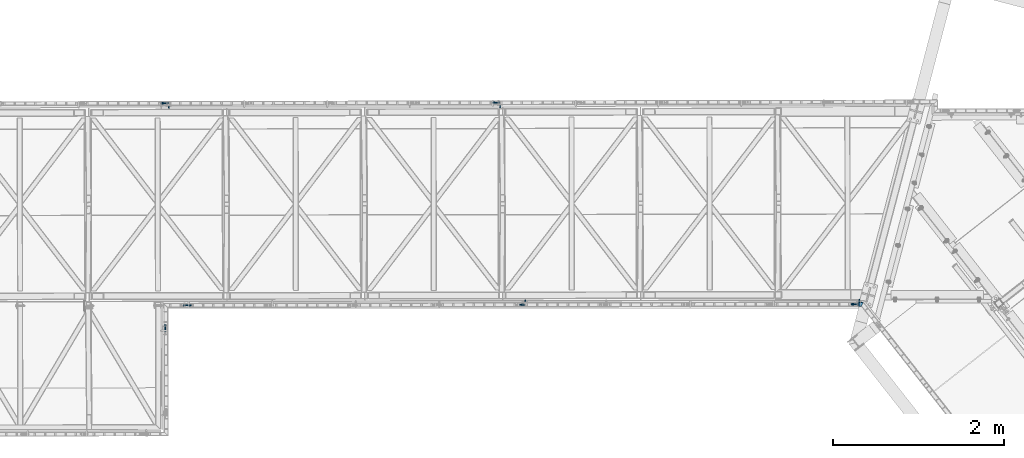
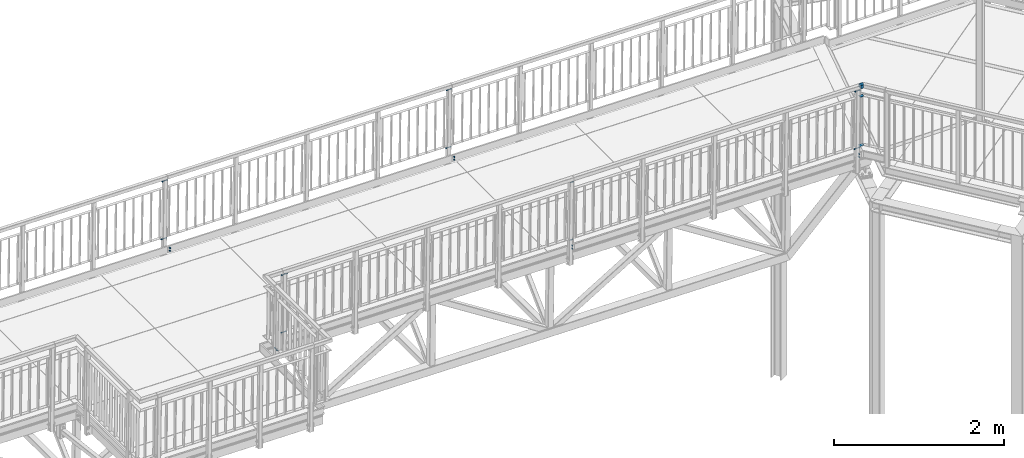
# One storey, part 165 of 169: 15 mechanical fasteners, 3 discrete accessories, 4 elements without a shape of their own.
"""IFC2X3 building model written with IfcOpenShell, lengths in millimetres."""

import ifcopenshell
import ifcopenshell.guid

model = None  # the IFC model being written
_history = None  # IfcOwnerHistory: only IFC2X3 demands one
_inside = {}  # id of a spatial element -> (the spatial element, [elements in it])
_under = {}  # id of a project, library or spatial element -> (it, [spatial elements below it])
_declared = {}  # id of a project -> (the project, [libraries it declares])
_typed = {}  # id of a type object -> (the type object, [elements of that type])
_made_of = {}  # id of a material, layer set ... -> (it, [elements and type objects made of it])


def new_model(schema):
    """Start an empty IFC model of exactly this schema.

    Asked for "IFC4X3", IfcOpenShell would pick the latest addendum, in which some entities
    have other attributes; the version numbers below select the first issue.
    IFC2X3 requires an IfcOwnerHistory on every rooted entity: one is made here for all.
    """
    global model, _history
    if schema == "IFC4X3":
        model = ifcopenshell.file(schema_version=(4, 3, 0, 0))
    else:
        model = ifcopenshell.file(schema=schema)
    _inside.clear()
    _under.clear()
    _declared.clear()
    _typed.clear()
    _made_of.clear()
    _history = None
    if model.schema == "IFC2X3":
        org = make("IfcOrganization", Name="unknown")
        user = make(
            "IfcPersonAndOrganization",
            ThePerson=make("IfcPerson", FamilyName="unknown"),
            TheOrganization=org,
        )
        app = make(
            "IfcApplication",
            ApplicationDeveloper=org,
            Version="unknown",
            ApplicationFullName="unknown",
            ApplicationIdentifier="unknown",
        )
        _history = make(
            "IfcOwnerHistory",
            OwningUser=user,
            OwningApplication=app,
            ChangeAction="ADDED",
            CreationDate=0,
        )
    return model


def make(cls, **values):
    """One entity of the class cls with the attributes given. An attribute that is None is left unset."""
    return model.create_entity(
        cls, **{name: value for name, value in values.items() if value is not None}
    )


def rooted(cls, **values):
    """An entity with a GlobalId (a new one), such as an element, a storey or a relation."""
    return make(cls, GlobalId=ifcopenshell.guid.new(), OwnerHistory=_history, **values)


def si_unit(unit_type, name, prefix=None):
    """IfcSIUnit, for example si_unit("LENGTHUNIT", "METRE", prefix="MILLI")."""
    return make("IfcSIUnit", UnitType=unit_type, Prefix=prefix, Name=name)


def assignment(units):
    """IfcUnitAssignment: the units of a project."""
    return None if units is None else make("IfcUnitAssignment", Units=units)


def point(xyz):
    """IfcCartesianPoint."""
    return None if xyz is None else make("IfcCartesianPoint", Coordinates=xyz)


def direction(xyz):
    """IfcDirection."""
    return None if xyz is None else make("IfcDirection", DirectionRatios=xyz)


def frame(location, z_axis=None, x_axis=None):
    """IfcAxis2Placement3D, a coordinate frame: its origin and axes. An axis left out is left unset."""
    return make(
        "IfcAxis2Placement3D",
        Location=point(location),
        Axis=direction(z_axis),
        RefDirection=direction(x_axis),
    )


def frame_2d(location, x_axis=None):
    """IfcAxis2Placement2D, a coordinate frame in the plane: its origin and x axis."""
    return make(
        "IfcAxis2Placement2D", Location=point(location), RefDirection=direction(x_axis)
    )


def origin_with_axes():
    """The frame at (0, 0, 0) with the z axis (0, 0, 1) and the x axis (1, 0, 0) written out."""
    return frame((0.0, 0.0, 0.0), z_axis=(0.0, 0.0, 1.0), x_axis=(1.0, 0.0, 0.0))


def origin_2d_with_axis():
    """The frame at (0, 0) in the plane with the x axis (1, 0) written out."""
    return frame_2d((0.0, 0.0), x_axis=(1.0, 0.0))


def place(relative_to, where):
    """IfcLocalPlacement: puts the frame where relative to a parent placement (None: the world)."""
    return make(
        "IfcLocalPlacement", PlacementRelTo=relative_to, RelativePlacement=where
    )


def context(
    kind, dimensions, precision=None, world=None, true_north=None, identifier=None
):
    """IfcGeometricRepresentationContext, for example the 3D "Model" context."""
    return make(
        "IfcGeometricRepresentationContext",
        ContextIdentifier=identifier,
        ContextType=kind,
        CoordinateSpaceDimension=dimensions,
        Precision=precision,
        WorldCoordinateSystem=world,
        TrueNorth=true_north,
    )


def subcontext(parent, identifier, kind, view, scale=None):
    """IfcGeometricRepresentationSubContext, for example "Body" below "Model"."""
    return make(
        "IfcGeometricRepresentationSubContext",
        ContextIdentifier=identifier,
        ContextType=kind,
        ParentContext=parent,
        TargetScale=scale,
        TargetView=view,
    )


def project(units=None, contexts=None):
    """IfcProject with its units and contexts."""
    return rooted(
        "IfcProject",
        Name="project",
        RepresentationContexts=contexts,
        UnitsInContext=assignment(units),
    )


def spatial(cls, under=None, at=None, **own):
    """A site, building, storey or space (cls), placed at a placement, below another one or the project."""
    s = rooted(cls, ObjectPlacement=at, **own)
    if under is not None:
        _under.setdefault(under.id(), (under, []))[1].append(s)
    return s


def polyline(points):
    """IfcPolyline through the points."""
    return make("IfcPolyline", Points=[point(p) for p in points])


def circle_curve(where, radius):
    """IfcCircle in the frame where."""
    return make("IfcCircle", Position=where, Radius=radius)


def parameter(value):
    """IfcParameterValue: where a trimmed curve begins or ends, as a parameter of its basis curve."""
    return model.create_entity("IfcParameterValue", value)


def trimmed(basis, trim1, trim2, sense, master):
    """IfcTrimmedCurve: the piece of a basis curve between two trims."""
    return make(
        "IfcTrimmedCurve",
        BasisCurve=basis,
        Trim1=trim1,
        Trim2=trim2,
        SenseAgreement=sense,
        MasterRepresentation=master,
    )


def segment(curve, same_sense, transition):
    """IfcCompositeCurveSegment."""
    return make(
        "IfcCompositeCurveSegment",
        Transition=transition,
        SameSense=same_sense,
        ParentCurve=curve,
    )


def composite_curve(segments, self_intersect=None):
    """IfcCompositeCurve: segments joined end to end."""
    return make("IfcCompositeCurve", Segments=segments, SelfIntersect=self_intersect)


def profile(cls, at=None, kind="AREA", **sizes):
    """A parametric profile (cls). Its sizes go by their IFC names, for example OverallWidth=200.0."""
    return make(cls, ProfileType=kind, Position=at, **sizes)


def hollow_rectangle(**sizes):
    """IfcRectangleHollowProfileDef."""
    return profile("IfcRectangleHollowProfileDef", **sizes)


def circle(**sizes):
    """IfcCircleProfileDef."""
    return profile("IfcCircleProfileDef", **sizes)


def outline(outer, holes=None, kind="AREA"):
    """IfcArbitraryClosedProfileDef: a profile drawn as a closed curve; with holes, ...WithVoids."""
    if holes is None:
        return make("IfcArbitraryClosedProfileDef", ProfileType=kind, OuterCurve=outer)
    return make(
        "IfcArbitraryProfileDefWithVoids",
        ProfileType=kind,
        OuterCurve=outer,
        InnerCurves=holes,
    )


def extrude(swept, where, along, depth):
    """IfcExtrudedAreaSolid: the profile swept, set in the frame where, extruded along a direction by depth."""
    return make(
        "IfcExtrudedAreaSolid",
        SweptArea=swept,
        Position=where,
        ExtrudedDirection=direction(along),
        Depth=depth,
    )


def clip(a, b, op="DIFFERENCE"):
    """IfcBooleanClippingResult: the solid a cut by the half space b."""
    return make(
        "IfcBooleanClippingResult", Operator=op, FirstOperand=a, SecondOperand=b
    )


def halfspace(plane, agree):
    """IfcHalfSpaceSolid: all space on one side of the plane z = 0 of the frame plane."""
    return make(
        "IfcHalfSpaceSolid",
        BaseSurface=make("IfcPlane", Position=plane),
        AgreementFlag=agree,
    )


def shape(context_of_items, identifier, shape_type, items):
    """IfcShapeRepresentation: the items that make up one representation, for example the "Body"."""
    return make(
        "IfcShapeRepresentation",
        ContextOfItems=context_of_items,
        RepresentationIdentifier=identifier,
        RepresentationType=shape_type,
        Items=items,
    )


def source(mapping_origin, context_of_items, identifier, shape_type, items):
    """IfcRepresentationMap: a shape defined once, which mapped items show again and again."""
    return make(
        "IfcRepresentationMap",
        MappingOrigin=mapping_origin,
        MappedRepresentation=shape(context_of_items, identifier, shape_type, items),
    )


def transform(
    local_origin,
    x_axis=None,
    y_axis=None,
    z_axis=None,
    scale=None,
    scale2=None,
    scale3=None,
    uniform=True,
):
    """IfcCartesianTransformationOperator3D, or its non-uniform kind. x_axis, y_axis, z_axis: its Axis1, 2, 3."""
    if uniform:
        return make(
            "IfcCartesianTransformationOperator3D",
            Axis1=direction(x_axis),
            Axis2=direction(y_axis),
            LocalOrigin=point(local_origin),
            Scale=scale,
            Axis3=direction(z_axis),
        )
    return make(
        "IfcCartesianTransformationOperator3DnonUniform",
        Axis1=direction(x_axis),
        Axis2=direction(y_axis),
        LocalOrigin=point(local_origin),
        Scale=scale,
        Axis3=direction(z_axis),
        Scale2=scale2,
        Scale3=scale3,
    )


def mapped(mapping_source, mapping_target):
    """IfcMappedItem: shows the shape of a source again, moved by a transform."""
    return make(
        "IfcMappedItem", MappingSource=mapping_source, MappingTarget=mapping_target
    )


def material(Name=None, Category=None):
    """IfcMaterial."""
    return make("IfcMaterial", Name=Name, Category=Category)


def made_of(thing, what):
    """Note that an element or type object is made of a material, layer set ...; save() writes the relation."""
    if what is not None:
        _made_of.setdefault(what.id(), (what, []))[1].append(thing)
    return thing


def type_object(cls, material=None, **own):
    """A type object (cls), such as IfcWallType, which elements share."""
    return made_of(rooted(cls, **own), material)


def element(
    cls,
    number,
    at=None,
    inside=None,
    cuts=None,
    type_object=None,
    material=None,
    context=None,
    identifier="Body",
    shape_type=None,
    held_by="IfcProductDefinitionShape",
    body=None,
    shapes=None,
    **own,
):
    """One element of the class cls, such as IfcWall. Its Tag is "e" and its number.

    at: its placement. inside: the storey or other place that contains it. cuts: it is an
    opening in that element (IfcRelVoidsElement). A single representation is given by context,
    identifier, shape_type and body (its items); several are given by shapes. held_by: the class
    of the entity that holds the representations. save() writes the other relations.
    """
    e = rooted(cls, Tag="e%d" % number, ObjectPlacement=at, **own)
    if body is not None:
        shapes = [shape(context, identifier, shape_type, body)]
    if shapes is not None:
        e.Representation = make(held_by, Representations=shapes)
    if inside is not None:
        _inside.setdefault(inside.id(), (inside, []))[1].append(e)
    if cuts is not None:
        rooted(
            "IfcRelVoidsElement", RelatingBuildingElement=cuts, RelatedOpeningElement=e
        )
    if type_object is not None:
        _typed.setdefault(type_object.id(), (type_object, []))[1].append(e)
    return made_of(e, material)


def aggregate(whole, parts):
    """IfcRelAggregates: a whole, such as a stair, and the parts it consists of."""
    return rooted("IfcRelAggregates", RelatingObject=whole, RelatedObjects=parts)


def save(model, path):
    """Write the relations noted so far, then the file.

    IfcRelAggregates (storeys below a building ...), IfcRelContainedInSpatialStructure (elements
    in a storey), IfcRelDefinesByType, IfcRelAssociatesMaterial and IfcRelDeclares: one each for
    every whole, place, type object, material and project.
    """
    for whole, parts in _under.values():
        aggregate(whole, parts)
    for where, things in _inside.values():
        rooted(
            "IfcRelContainedInSpatialStructure",
            RelatedElements=things,
            RelatingStructure=where,
        )
    for kind, things in _typed.values():
        rooted("IfcRelDefinesByType", RelatedObjects=things, RelatingType=kind)
    for what, things in _made_of.values():
        rooted("IfcRelAssociatesMaterial", RelatedObjects=things, RelatingMaterial=what)
    for by, libraries in _declared.values():
        rooted("IfcRelDeclares", RelatingContext=by, RelatedDefinitions=libraries)
    model.write(path)


model = new_model("IFC2X3")

# Units and contexts
model_context = context("Model", 3, precision=1e-05, world=origin_with_axes())
body_context = subcontext(model_context, "Body", "Model", "MODEL_VIEW")
ifc_project = project(units=[si_unit("LENGTHUNIT", "METRE", prefix="MILLI"), si_unit("AREAUNIT", "SQUARE_METRE"), si_unit("VOLUMEUNIT", "CUBIC_METRE"), si_unit("MASSUNIT", "GRAM", prefix="KILO"), si_unit("TIMEUNIT", "SECOND"), si_unit("PLANEANGLEUNIT", "RADIAN"), si_unit("SOLIDANGLEUNIT", "STERADIAN"), si_unit("THERMODYNAMICTEMPERATUREUNIT", "DEGREE_CELSIUS"), si_unit("LUMINOUSINTENSITYUNIT", "LUMEN")], contexts=[model_context])

# Site, building, storey
site_placement = place(None, origin_with_axes())
site = spatial("IfcSite", under=ifc_project, at=site_placement, Name="Undefined", CompositionType="ELEMENT")
building_placement = place(site_placement, origin_with_axes())
building = spatial("IfcBuilding", under=site, at=building_placement, Name="Undefined", CompositionType="ELEMENT")
storey_placement = place(building_placement, origin_with_axes())
storey = spatial("IfcBuildingStorey", under=building, at=storey_placement, Name="Undefined", CompositionType="ELEMENT", Elevation=0.0)

# Assembly, discrete accessories, mechanical fasteners
assembly_1_placement = place(storey_placement, origin_with_axes())
assembly_1 = element("IfcElementAssembly", 1, at=assembly_1_placement, inside=storey, Name="Steel Assembly", AssemblyPlace="NOTDEFINED", PredefinedType="RIGID_FRAME")
ifc_material_1 = material(Name="STEEL/S235")
discrete_accessory_type_1 = type_object("IfcDiscreteAccessoryType", Name="PORĘCZ")
discrete_accessory_1_placement = place(assembly_1_placement, frame((18352.2144360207, 29.2418517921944, 14031.9308487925), z_axis=(-2.54700353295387e-10, 0.0, -1.0), x_axis=(-0.999998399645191, -0.00178905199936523, -2.9999999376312e-08)))
discrete_accessory_1 = element("IfcDiscreteAccessory", 2, at=discrete_accessory_1_placement, type_object=discrete_accessory_type_1, material=ifc_material_1, Name="PORĘCZ", ObjectType="BL40*3", context=body_context, shape_type="Clipping", body=[
    clip(clip(clip(extrude(outline(polyline([(41.5471938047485, -19.9999999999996), (-6.66753985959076, -20.0), (-26.1714356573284, 19.9999999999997), (41.5502256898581, 20.0000000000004), (41.5471938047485, -19.9999999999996)])), frame((1.81898940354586e-12, -1.77635442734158e-15, -1.50000000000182), z_axis=(0.0, 0.0, 1.0), x_axis=(1.0, 0.0, 0.0)), (0.0, 0.0, 1.0), 3.0), halfspace(frame((-6.66753985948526, -20.0000000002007, 2.71393219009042e-09), z_axis=(-0.898841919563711, -0.438272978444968, -6.07536622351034e-11), x_axis=(-2.54700353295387e-10, 0.0, -1.0)), False)), halfspace(frame((41.6249109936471, 1000.00018660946, 0.0317833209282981), z_axis=(-0.999919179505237, 7.57910018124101e-05, 0.0127133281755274), x_axis=(0.0127133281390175, -9.63496930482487e-07, 0.999919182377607)), True)), halfspace(frame((46.6289521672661, 1000.0018919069, 0.317833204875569), z_axis=(-0.999919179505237, 7.57910018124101e-05, 0.0127133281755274), x_axis=(0.0127133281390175, -9.63496930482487e-07, 0.999919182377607)), True)),
])
discrete_accessory_2_placement = place(assembly_1_placement, frame((18351.7902672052, 29.2411683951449, 14736.4308546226), z_axis=(-2.54700353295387e-10, 0.0, -1.0), x_axis=(-0.999998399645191, -0.00178905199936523, -2.9999999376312e-08)))
discrete_accessory_2 = element("IfcDiscreteAccessory", 3, at=discrete_accessory_2_placement, type_object=discrete_accessory_type_1, material=ifc_material_1, Name="PORĘCZ", ObjectType="BL40*3", context=body_context, shape_type="Clipping", body=[
    clip(clip(extrude(outline(polyline([(32.1658776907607, -19.9999999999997), (-7.09165019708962, -20.0), (-26.5955459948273, 19.9999999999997), (32.1689095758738, 20.0000000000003), (32.1658776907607, -19.9999999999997)])), frame((1.81898940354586e-12, -1.77635442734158e-15, -1.50000000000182), z_axis=(0.0, 0.0, 1.0), x_axis=(1.0, 0.0, 0.0)), (0.0, 0.0, 1.0), 3.0), halfspace(frame((-7.09165019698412, -20.0000000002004, 2.71393219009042e-09), z_axis=(-0.898841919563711, -0.438272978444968, -6.07536622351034e-11), x_axis=(-2.54700353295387e-10, 0.0, -1.0)), False)), halfspace(frame((32.2435948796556, 1000.00018660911, 0.0317833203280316), z_axis=(-0.999919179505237, 7.57910018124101e-05, 0.0127133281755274), x_axis=(0.0127133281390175, -9.63496930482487e-07, 0.999919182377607)), True)),
])
discrete_accessory_3_placement = place(assembly_1_placement, frame((18406.7901670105, 29.3395817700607, 14881.4308637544), z_axis=(-0.00178905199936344, 0.999998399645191, 0.0), x_axis=(-0.999998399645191, -0.00178905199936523, -2.9999999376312e-08)))
discrete_accessory_3 = element("IfcDiscreteAccessory", 4, at=discrete_accessory_3_placement, type_object=discrete_accessory_type_1, material=ifc_material_1, Name="PORĘCZ", ObjectType="SHS50*3", context=body_context, shape_type="Clipping", body=[
    clip(clip(extrude(hollow_rectangle(XDim=50.0, YDim=50.0, WallThickness=3.0, InnerFilletRadius=3.0, OuterFilletRadius=6.0, at=origin_2d_with_axis()), frame((98.0489649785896, -1.81898940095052e-12, -1.31768923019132e-15), z_axis=(-1.0, -3.46944695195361e-18, -1.38777878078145e-17), x_axis=(1.73472347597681e-18, -1.0, 0.0)), (0.0, 0.0, 1.0), 72.62), halfspace(frame((85.4000260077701, -0.0317833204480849, 1000.00018661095), z_axis=(-0.999919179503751, -0.0127133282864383, 7.57920017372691e-05), x_axis=(0.012713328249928, -0.999919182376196, -9.63501842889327e-07)), True)), halfspace(frame((25.9664652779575, -4.39886025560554e-06, 25.0000015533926), z_axis=(0.898841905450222, 2.71121789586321e-08, 0.43827300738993), x_axis=(0.0, 1.0, 0.0)), True)),
])
ifc_material_2 = material(Name="Undefined")
discrete_accessory_type_2 = type_object("IfcDiscreteAccessoryType", Name="Bolt assembly")
shared_shape_1 = source(origin_with_axes(), body_context, "Body", "SweptSolid", [
    extrude(circle(Radius=6.5, at=origin_2d_with_axis()), frame((0.0, 4.89999999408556, 0.0), z_axis=(0.0, 1.0, 0.0), x_axis=(1.0, 0.0, 0.0)), (0.0, 0.0, 1.0), 50.1),
    extrude(circle(Radius=6.5, at=origin_2d_with_axis()), frame((0.0, 0.100000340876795, 0.0), z_axis=(0.0, 1.0, 0.0), x_axis=(1.0, 0.0, 0.0)), (0.0, 0.0, 1.0), 5.0),
    extrude(outline(polyline([(8.66025403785, 0.0), (4.330127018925, 7.50000000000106), (-4.330127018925, 7.50000000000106), (-8.66025403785, 0.0), (-4.330127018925, -7.50000000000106), (4.330127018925, -7.50000000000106), (8.66025403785, 0.0)])), frame((0.0, -8.39999975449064, 0.0), z_axis=(0.0, 1.0, 0.0), x_axis=(1.0, 0.0, 0.0)), (0.0, 0.0, 1.0), 6.4),
    extrude(circle(Radius=5.0, at=origin_2d_with_axis()), frame((0.0, -1.9999996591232, 0.0), z_axis=(0.0, 1.0, 0.0), x_axis=(1.0, 0.0, 0.0)), (0.0, 0.0, 1.0), 75.0),
    extrude(circle(Radius=10.0, at=origin_2d_with_axis()), frame((0.0, -1.9999996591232, 0.0), z_axis=(0.0, 1.0, 0.0), x_axis=(1.0, 0.0, 0.0)), (0.0, 0.0, 1.0), 2.0),
    extrude(circle(Radius=10.0, at=origin_2d_with_axis()), frame((0.0, 54.9999999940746, 0.0), z_axis=(0.0, 1.0, 0.0), x_axis=(1.0, 0.0, 0.0)), (0.0, 0.0, 1.0), 2.0),
    extrude(outline(polyline([(9.81495457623, 0.0), (4.907477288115, 8.5000000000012), (-4.907477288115, 8.5000000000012), (-9.81495457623, 0.0), (-4.907477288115, -8.5000000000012), (4.907477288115, -8.5000000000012), (9.81495457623, 0.0)])), frame((0.0, 56.999999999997, 0.0), z_axis=(0.0, 1.0, 0.0), x_axis=(1.0, 0.0, 0.0)), (0.0, 0.0, 1.0), 8.0),
])
mechanical_fastener_1_placement = place(assembly_1_placement, frame((10231.7440465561, -220.905757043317, 14108.2152996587), z_axis=(0.012713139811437, 2.3750999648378e-05, 0.999919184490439), x_axis=(-0.999917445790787, -0.00186469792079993, 0.0127131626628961)))
mechanical_fastener_1 = element("IfcMechanicalFastener", 5, at=mechanical_fastener_1_placement, type_object=discrete_accessory_type_2, material=ifc_material_2, Name="Bolt assembly", NominalDiameter=10.0, NominalLength=75.0, context=body_context, shape_type="MappedRepresentation", body=[
    mapped(shared_shape_1, transform((0.0, 0.0, 0.0))),
])
mechanical_fastener_2_placement = place(assembly_1_placement, frame((18310.3297196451, 29.1600126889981, 14005.4968701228), z_axis=(0.012713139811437, 2.3750999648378e-05, 0.999919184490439), x_axis=(-0.0018648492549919, 0.999998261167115, -4.2996762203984e-08)))
mechanical_fastener_2 = element("IfcMechanicalFastener", 6, at=mechanical_fastener_2_placement, type_object=discrete_accessory_type_2, material=ifc_material_2, Name="Bolt assembly", NominalDiameter=10.0, NominalLength=75.0, context=body_context, shape_type="MappedRepresentation", body=[
    mapped(shared_shape_1, transform((0.0, 0.0, 0.0))),
])

# Assembly, mechanical fasteners
assembly_2_placement = place(storey_placement, origin_with_axes())
assembly_2 = element("IfcElementAssembly", 7, at=assembly_2_placement, inside=storey, Name="Steel Assembly", AssemblyPlace="NOTDEFINED", PredefinedType="RIGID_FRAME")
mechanical_fastener_3_placement = place(assembly_2_placement, frame((10261.6815484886, 2374.15462246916, 14933.8397875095), z_axis=(0.012713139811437, 2.3750999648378e-05, 0.999919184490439), x_axis=(-0.0018648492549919, 0.999998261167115, -4.2996762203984e-08)))
mechanical_fastener_3 = element("IfcMechanicalFastener", 8, at=mechanical_fastener_3_placement, type_object=discrete_accessory_type_2, material=ifc_material_2, Name="Bolt assembly", NominalDiameter=10.0, NominalLength=75.0, context=body_context, shape_type="MappedRepresentation", body=[
    mapped(shared_shape_1, transform((0.0, 0.0, 0.0))),
])
mechanical_fastener_4_placement = place(assembly_2_placement, frame((10251.1804948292, 2374.13500413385, 14107.9065411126), z_axis=(0.012713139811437, 2.3750999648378e-05, 0.999919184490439), x_axis=(-0.0018648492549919, 0.999998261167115, -4.2996762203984e-08)))
mechanical_fastener_4 = element("IfcMechanicalFastener", 9, at=mechanical_fastener_4_placement, type_object=discrete_accessory_type_2, material=ifc_material_2, Name="Bolt assembly", NominalDiameter=10.0, NominalLength=75.0, context=body_context, shape_type="MappedRepresentation", body=[
    mapped(shared_shape_1, transform((0.0, 0.0, 0.0))),
])

# Mechanical fastener
mechanical_fastener_5_placement = place(assembly_1_placement, frame((10461.6856161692, 14.5234963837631, 14931.3529511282), z_axis=(-0.012713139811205, -2.37511238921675e-05, -0.999919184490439), x_axis=(-0.0018648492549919, 0.999998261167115, -4.2996762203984e-08)))
mechanical_fastener_5 = element("IfcMechanicalFastener", 10, at=mechanical_fastener_5_placement, type_object=discrete_accessory_type_2, material=ifc_material_2, Name="Bolt assembly", NominalDiameter=10.0, NominalLength=75.0, context=body_context, shape_type="MappedRepresentation", body=[
    mapped(shared_shape_1, transform((0.0, 0.0, 0.0))),
])

mechanical_fastener_6_placement = place(assembly_1_placement, frame((10451.1845628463, 14.5038780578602, 14105.4197047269), z_axis=(-0.012713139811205, -2.37511238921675e-05, -0.999919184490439), x_axis=(-0.0018648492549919, 0.999998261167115, -4.2996762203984e-08)))
mechanical_fastener_6 = element("IfcMechanicalFastener", 11, at=mechanical_fastener_6_placement, type_object=discrete_accessory_type_2, material=ifc_material_2, Name="Bolt assembly", NominalDiameter=10.0, NominalLength=75.0, context=body_context, shape_type="MappedRepresentation", body=[
    mapped(shared_shape_1, transform((0.0, 0.0, 0.0))),
])

# Assembly, mechanical fastener
assembly_3_placement = place(storey_placement, origin_with_axes())
assembly_3 = element("IfcElementAssembly", 12, at=assembly_3_placement, inside=storey, Name="Steel Assembly", AssemblyPlace="NOTDEFINED", PredefinedType="RIGID_FRAME")
shared_shape_2 = source(origin_with_axes(), body_context, "Body", "SweptSolid", [
    extrude(outline(composite_curve([segment(polyline([(-5.0, 6.5), (5.0, 6.5)]), True, "CONTINUOUS"), segment(trimmed(circle_curve(frame_2d((5.0, 0.0), x_axis=(0.0, 1.0)), 6.5), [parameter(0.0)], [parameter(3.14159265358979)], False, "PARAMETER"), True, "CONTINUOUS"), segment(polyline([(5.0, -6.5), (-5.0, -6.5)]), True, "CONTINUOUS"), segment(trimmed(circle_curve(frame_2d((-5.0, 0.0), x_axis=(0.0, -1.0)), 6.5), [parameter(0.0)], [parameter(3.14159265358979)], False, "PARAMETER"), True, "DISCONTINUOUS")], self_intersect=False)), frame((0.0, 4.63702733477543, 0.0), z_axis=(0.0, 1.0, 0.0), x_axis=(1.0, 0.0, 0.0)), (0.0, 0.0, 1.0), 2.1),
    extrude(outline(composite_curve([segment(polyline([(6.5, 5.0), (6.5, -5.0)]), True, "CONTINUOUS"), segment(trimmed(circle_curve(frame_2d((0.0, -5.0), x_axis=(1.0, 0.0)), 6.5), [parameter(0.0)], [parameter(3.14159265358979)], False, "PARAMETER"), True, "CONTINUOUS"), segment(polyline([(-6.5, -5.0), (-6.5, 5.0)]), True, "CONTINUOUS"), segment(trimmed(circle_curve(frame_2d((0.0, 5.0), x_axis=(-1.0, 0.0)), 6.5), [parameter(0.0)], [parameter(3.14159265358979)], False, "PARAMETER"), True, "DISCONTINUOUS")], self_intersect=False)), frame((0.0, 0.100000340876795, 0.0), z_axis=(0.0, 1.0, 0.0), x_axis=(1.0, 0.0, 0.0)), (0.0, 0.0, 1.0), 3.0),
    extrude(outline(polyline([(8.66025403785, 0.0), (4.330127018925, 7.50000000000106), (-4.330127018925, 7.50000000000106), (-8.66025403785, 0.0), (-4.330127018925, -7.50000000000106), (4.330127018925, -7.50000000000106), (8.66025403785, 0.0)])), frame((0.0, -8.39999975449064, 0.0), z_axis=(0.0, 1.0, 0.0), x_axis=(1.0, 0.0, 0.0)), (0.0, 0.0, 1.0), 6.4),
    extrude(circle(Radius=5.0, at=origin_2d_with_axis()), frame((0.0, -1.9999996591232, 0.0), z_axis=(0.0, 1.0, 0.0), x_axis=(1.0, 0.0, 0.0)), (0.0, 0.0, 1.0), 25.0),
    extrude(circle(Radius=10.0, at=origin_2d_with_axis()), frame((0.0, -1.9999996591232, 0.0), z_axis=(0.0, 1.0, 0.0), x_axis=(1.0, 0.0, 0.0)), (0.0, 0.0, 1.0), 2.0),
    extrude(circle(Radius=10.0, at=origin_2d_with_axis()), frame((0.0, 6.73852069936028, 0.0), z_axis=(0.0, 1.0, 0.0), x_axis=(1.0, 0.0, 0.0)), (0.0, 0.0, 1.0), 2.0),
    extrude(outline(polyline([(9.81495457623, 0.0), (4.907477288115, 8.5000000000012), (-4.907477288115, 8.5000000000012), (-9.81495457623, 0.0), (-4.907477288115, -8.5000000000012), (4.907477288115, -8.5000000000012), (9.81495457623, 0.0)])), frame((0.0, 8.73852069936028, 0.0), z_axis=(0.0, 1.0, 0.0), x_axis=(1.0, 0.0, 0.0)), (0.0, 0.0, 1.0), 8.0),
])
mechanical_fastener_7_placement = place(assembly_3_placement, frame((18333.1737014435, 66.2026782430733, 13841.192293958), z_axis=(-0.999917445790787, -0.00186469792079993, 0.0127131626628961), x_axis=(0.012713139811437, 2.3750999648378e-05, 0.999919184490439)))
mechanical_fastener_7 = element("IfcMechanicalFastener", 13, at=mechanical_fastener_7_placement, type_object=discrete_accessory_type_2, material=ifc_material_2, Name="Bolt assembly", NominalDiameter=10.0, NominalLength=25.0, context=body_context, shape_type="MappedRepresentation", body=[
    mapped(shared_shape_2, transform((0.0, 0.0, 0.0))),
    mapped(shared_shape_2, transform((39.9999999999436, -6.54836185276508e-11, 2.74846811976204e-11))),
])
aggregate(assembly_3, [mechanical_fastener_7])

# Mechanical fastener
shared_shape_3 = source(origin_with_axes(), body_context, "Body", "SweptSolid", [
    extrude(outline(composite_curve([segment(polyline([(-5.0, 6.5), (5.0, 6.5)]), True, "CONTINUOUS"), segment(trimmed(circle_curve(frame_2d((5.0, 0.0), x_axis=(0.0, 1.0)), 6.5), [parameter(0.0)], [parameter(3.14159265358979)], False, "PARAMETER"), True, "CONTINUOUS"), segment(polyline([(5.0, -6.5), (-5.0, -6.5)]), True, "CONTINUOUS"), segment(trimmed(circle_curve(frame_2d((-5.0, 0.0), x_axis=(0.0, -1.0)), 6.5), [parameter(0.0)], [parameter(3.14159265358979)], False, "PARAMETER"), True, "DISCONTINUOUS")], self_intersect=False)), frame((0.0, 2.89911726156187, 0.0), z_axis=(0.0, 1.0, 0.0), x_axis=(1.0, 0.0, 0.0)), (0.0, 0.0, 1.0), 2.1),
    extrude(outline(composite_curve([segment(polyline([(6.5, 5.0), (6.5, -5.0)]), True, "CONTINUOUS"), segment(trimmed(circle_curve(frame_2d((0.0, -5.0), x_axis=(1.0, 0.0)), 6.5), [parameter(0.0)], [parameter(3.14159265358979)], False, "PARAMETER"), True, "CONTINUOUS"), segment(polyline([(-6.5, -5.0), (-6.5, 5.0)]), True, "CONTINUOUS"), segment(trimmed(circle_curve(frame_2d((0.0, 5.0), x_axis=(-1.0, 0.0)), 6.5), [parameter(0.0)], [parameter(3.14159265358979)], False, "PARAMETER"), True, "DISCONTINUOUS")], self_intersect=False)), frame((0.0, 0.100000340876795, 0.0), z_axis=(0.0, 1.0, 0.0), x_axis=(1.0, 0.0, 0.0)), (0.0, 0.0, 1.0), 3.0),
    extrude(outline(polyline([(8.66025403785, 0.0), (4.330127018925, 7.50000000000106), (-4.330127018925, 7.50000000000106), (-8.66025403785, 0.0), (-4.330127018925, -7.50000000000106), (4.330127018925, -7.50000000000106), (8.66025403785, 0.0)])), frame((0.0, -8.39999975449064, 0.0), z_axis=(0.0, 1.0, 0.0), x_axis=(1.0, 0.0, 0.0)), (0.0, 0.0, 1.0), 6.4),
    extrude(circle(Radius=5.0, at=origin_2d_with_axis()), frame((0.0, -1.9999996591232, 0.0), z_axis=(0.0, 1.0, 0.0), x_axis=(1.0, 0.0, 0.0)), (0.0, 0.0, 1.0), 25.0),
    extrude(circle(Radius=10.0, at=origin_2d_with_axis()), frame((0.0, -1.9999996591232, 0.0), z_axis=(0.0, 1.0, 0.0), x_axis=(1.0, 0.0, 0.0)), (0.0, 0.0, 1.0), 2.0),
    extrude(circle(Radius=10.0, at=origin_2d_with_axis()), frame((0.0, 4.99911726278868, 0.0), z_axis=(0.0, 1.0, 0.0), x_axis=(1.0, 0.0, 0.0)), (0.0, 0.0, 1.0), 2.0),
    extrude(outline(polyline([(9.81495457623, 0.0), (4.907477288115, 8.5000000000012), (-4.907477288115, 8.5000000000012), (-9.81495457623, 0.0), (-4.907477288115, -8.5000000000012), (4.907477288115, -8.5000000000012), (9.81495457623, 0.0)])), frame((0.0, 6.99911726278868, 0.0), z_axis=(0.0, 1.0, 0.0), x_axis=(1.0, 0.0, 0.0)), (0.0, 0.0, 1.0), 8.0),
])
mechanical_fastener_8_placement = place(assembly_1_placement, frame((14433.6960354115, 61.9307349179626, 13890.7710069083), z_axis=(-0.999917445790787, -0.00186469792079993, 0.0127131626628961), x_axis=(0.012713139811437, 2.3750999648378e-05, 0.999919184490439)))
mechanical_fastener_8 = element("IfcMechanicalFastener", 14, at=mechanical_fastener_8_placement, type_object=discrete_accessory_type_2, material=ifc_material_2, Name="Bolt assembly", NominalDiameter=10.0, NominalLength=25.0, context=body_context, shape_type="MappedRepresentation", body=[
    mapped(shared_shape_3, transform((0.0, 0.0, 0.0))),
    mapped(shared_shape_3, transform((39.9999999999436, -6.54836185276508e-11, 2.74846811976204e-11))),
])

shared_shape_4 = source(origin_with_axes(), body_context, "Body", "SweptSolid", [
    extrude(circle(Radius=6.5, at=origin_2d_with_axis()), frame((0.0, 4.89999999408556, 0.0), z_axis=(0.0, 1.0, 0.0), x_axis=(1.0, 0.0, 0.0)), (0.0, 0.0, 1.0), 3.1),
    extrude(circle(Radius=6.5, at=origin_2d_with_axis()), frame((0.0, 0.100000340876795, 0.0), z_axis=(0.0, 1.0, 0.0), x_axis=(1.0, 0.0, 0.0)), (0.0, 0.0, 1.0), 5.0),
    extrude(outline(polyline([(8.66025403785, 0.0), (4.330127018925, 7.50000000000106), (-4.330127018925, 7.50000000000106), (-8.66025403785, 0.0), (-4.330127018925, -7.50000000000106), (4.330127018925, -7.50000000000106), (8.66025403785, 0.0)])), frame((0.0, -8.39999975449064, 0.0), z_axis=(0.0, 1.0, 0.0), x_axis=(1.0, 0.0, 0.0)), (0.0, 0.0, 1.0), 6.4),
    extrude(circle(Radius=5.0, at=origin_2d_with_axis()), frame((0.0, -1.9999996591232, 0.0), z_axis=(0.0, 1.0, 0.0), x_axis=(1.0, 0.0, 0.0)), (0.0, 0.0, 1.0), 40.0),
    extrude(circle(Radius=10.0, at=origin_2d_with_axis()), frame((0.0, -1.9999996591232, 0.0), z_axis=(0.0, 1.0, 0.0), x_axis=(1.0, 0.0, 0.0)), (0.0, 0.0, 1.0), 2.0),
    extrude(circle(Radius=10.0, at=origin_2d_with_axis()), frame((0.0, 7.99999999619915, 0.0), z_axis=(0.0, 1.0, 0.0), x_axis=(1.0, 0.0, 0.0)), (0.0, 0.0, 1.0), 2.0),
    extrude(outline(polyline([(9.81495457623, 0.0), (4.907477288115, 8.5000000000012), (-4.907477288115, 8.5000000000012), (-9.81495457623, 0.0), (-4.907477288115, -8.5000000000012), (4.907477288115, -8.5000000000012), (9.81495457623, 0.0)])), frame((0.0, 9.99999999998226, 0.0), z_axis=(0.0, 1.0, 0.0), x_axis=(1.0, 0.0, 0.0)), (0.0, 0.0, 1.0), 8.0),
])
mechanical_fastener_9_placement = place(assembly_1_placement, frame((14421.3587014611, 21.907699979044, 14881.0088300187), z_axis=(-0.012713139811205, -2.37511238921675e-05, -0.999919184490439), x_axis=(0.00186484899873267, -0.999998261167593, 4.28757666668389e-08)))
mechanical_fastener_9 = element("IfcMechanicalFastener", 15, at=mechanical_fastener_9_placement, type_object=discrete_accessory_type_2, material=ifc_material_2, Name="Bolt assembly", NominalDiameter=10.0, NominalLength=40.0, context=body_context, shape_type="MappedRepresentation", body=[
    mapped(shared_shape_4, transform((0.0, 0.0, 0.0))),
])

mechanical_fastener_10_placement = place(assembly_1_placement, frame((14410.8576481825, 21.8880816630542, 14055.0755836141), z_axis=(-0.012713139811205, -2.37511238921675e-05, -0.999919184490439), x_axis=(0.00186484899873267, -0.999998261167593, 4.28757666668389e-08)))
mechanical_fastener_10 = element("IfcMechanicalFastener", 16, at=mechanical_fastener_10_placement, type_object=discrete_accessory_type_2, material=ifc_material_2, Name="Bolt assembly", NominalDiameter=10.0, NominalLength=40.0, context=body_context, shape_type="MappedRepresentation", body=[
    mapped(shared_shape_4, transform((0.0, 0.0, 0.0))),
])

# Assembly, mechanical fastener
assembly_4_placement = place(storey_placement, origin_with_axes())
assembly_4 = element("IfcElementAssembly", 17, at=assembly_4_placement, inside=storey, Name="Steel Assembly", AssemblyPlace="NOTDEFINED", PredefinedType="RIGID_FRAME")
shared_shape_5 = source(origin_with_axes(), body_context, "Body", "SweptSolid", [
    extrude(outline(composite_curve([segment(polyline([(-5.0, 6.5), (5.0, 6.5)]), True, "CONTINUOUS"), segment(trimmed(circle_curve(frame_2d((5.0, 0.0), x_axis=(0.0, 1.0)), 6.5), [parameter(0.0)], [parameter(3.14159265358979)], False, "PARAMETER"), True, "CONTINUOUS"), segment(polyline([(5.0, -6.5), (-5.0, -6.5)]), True, "CONTINUOUS"), segment(trimmed(circle_curve(frame_2d((-5.0, 0.0), x_axis=(0.0, -1.0)), 6.5), [parameter(0.0)], [parameter(3.14159265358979)], False, "PARAMETER"), True, "DISCONTINUOUS")], self_intersect=False)), frame((0.0, 2.89999597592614, 0.0), z_axis=(0.0, 1.0, 0.0), x_axis=(1.0, 0.0, 0.0)), (0.0, 0.0, 1.0), 2.1),
    extrude(outline(composite_curve([segment(polyline([(6.5, 5.0), (6.5, -5.0)]), True, "CONTINUOUS"), segment(trimmed(circle_curve(frame_2d((0.0, -5.0), x_axis=(1.0, 0.0)), 6.5), [parameter(0.0)], [parameter(3.14159265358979)], False, "PARAMETER"), True, "CONTINUOUS"), segment(polyline([(-6.5, -5.0), (-6.5, 5.0)]), True, "CONTINUOUS"), segment(trimmed(circle_curve(frame_2d((0.0, 5.0), x_axis=(-1.0, 0.0)), 6.5), [parameter(0.0)], [parameter(3.14159265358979)], False, "PARAMETER"), True, "DISCONTINUOUS")], self_intersect=False)), frame((0.0, 0.100000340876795, 0.0), z_axis=(0.0, 1.0, 0.0), x_axis=(1.0, 0.0, 0.0)), (0.0, 0.0, 1.0), 3.0),
    extrude(outline(polyline([(8.66025403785, 0.0), (4.330127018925, 7.50000000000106), (-4.330127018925, 7.50000000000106), (-8.66025403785, 0.0), (-4.330127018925, -7.50000000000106), (4.330127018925, -7.50000000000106), (8.66025403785, 0.0)])), frame((0.0, -8.39999975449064, 0.0), z_axis=(0.0, 1.0, 0.0), x_axis=(1.0, 0.0, 0.0)), (0.0, 0.0, 1.0), 6.4),
    extrude(circle(Radius=5.0, at=origin_2d_with_axis()), frame((0.0, -1.9999996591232, 0.0), z_axis=(0.0, 1.0, 0.0), x_axis=(1.0, 0.0, 0.0)), (0.0, 0.0, 1.0), 25.0),
    extrude(circle(Radius=10.0, at=origin_2d_with_axis()), frame((0.0, -1.9999996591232, 0.0), z_axis=(0.0, 1.0, 0.0), x_axis=(1.0, 0.0, 0.0)), (0.0, 0.0, 1.0), 2.0),
    extrude(circle(Radius=10.0, at=origin_2d_with_axis()), frame((0.0, 4.99997856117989, 0.0), z_axis=(0.0, 1.0, 0.0), x_axis=(1.0, 0.0, 0.0)), (0.0, 0.0, 1.0), 2.0),
    extrude(outline(polyline([(9.81495457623, 0.0), (4.907477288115, 8.5000000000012), (-4.907477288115, 8.5000000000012), (-9.81495457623, 0.0), (-4.907477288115, -8.5000000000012), (4.907477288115, -8.5000000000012), (9.81495457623, 0.0)])), frame((0.0, 6.99997856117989, 0.0), z_axis=(0.0, 1.0, 0.0), x_axis=(1.0, 0.0, 0.0)), (0.0, 0.0, 1.0), 8.0),
])
mechanical_fastener_11_placement = place(assembly_4_placement, frame((14140.6266857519, 2341.38816897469, 13894.4429951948), z_axis=(0.9999174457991, 0.00186469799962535, -0.0127131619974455), x_axis=(0.012713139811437, 2.3750999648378e-05, 0.999919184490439)))
mechanical_fastener_11 = element("IfcMechanicalFastener", 18, at=mechanical_fastener_11_placement, type_object=discrete_accessory_type_2, material=ifc_material_2, Name="Bolt assembly", NominalDiameter=10.0, NominalLength=25.0, context=body_context, shape_type="MappedRepresentation", body=[
    mapped(shared_shape_5, transform((0.0, 0.0, 0.0))),
    mapped(shared_shape_5, transform((39.9999999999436, -6.54836185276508e-11, 2.74846811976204e-11))),
])
aggregate(assembly_4, [mechanical_fastener_11])

# Mechanical fastener
shared_shape_6 = source(origin_with_axes(), body_context, "Body", "SweptSolid", [
    extrude(outline(composite_curve([segment(polyline([(-5.0, 6.5), (5.0, 6.5)]), True, "CONTINUOUS"), segment(trimmed(circle_curve(frame_2d((5.0, 0.0), x_axis=(0.0, 1.0)), 6.5), [parameter(0.0)], [parameter(3.14159265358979)], False, "PARAMETER"), True, "CONTINUOUS"), segment(polyline([(5.0, -6.5), (-5.0, -6.5)]), True, "CONTINUOUS"), segment(trimmed(circle_curve(frame_2d((-5.0, 0.0), x_axis=(0.0, -1.0)), 6.5), [parameter(0.0)], [parameter(3.14159265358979)], False, "PARAMETER"), True, "DISCONTINUOUS")], self_intersect=False)), frame((0.0, 2.89999597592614, 0.0), z_axis=(0.0, 1.0, 0.0), x_axis=(1.0, 0.0, 0.0)), (0.0, 0.0, 1.0), 2.1),
    extrude(outline(composite_curve([segment(polyline([(6.5, 5.0), (6.5, -5.0)]), True, "CONTINUOUS"), segment(trimmed(circle_curve(frame_2d((0.0, -5.0), x_axis=(1.0, 0.0)), 6.5), [parameter(0.0)], [parameter(3.14159265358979)], False, "PARAMETER"), True, "CONTINUOUS"), segment(polyline([(-6.5, -5.0), (-6.5, 5.0)]), True, "CONTINUOUS"), segment(trimmed(circle_curve(frame_2d((0.0, 5.0), x_axis=(-1.0, 0.0)), 6.5), [parameter(0.0)], [parameter(3.14159265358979)], False, "PARAMETER"), True, "DISCONTINUOUS")], self_intersect=False)), frame((0.0, 0.100000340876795, 0.0), z_axis=(0.0, 1.0, 0.0), x_axis=(1.0, 0.0, 0.0)), (0.0, 0.0, 1.0), 3.0),
    extrude(outline(polyline([(8.66025403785, 0.0), (4.330127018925, 7.50000000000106), (-4.330127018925, 7.50000000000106), (-8.66025403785, 0.0), (-4.330127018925, -7.50000000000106), (4.330127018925, -7.50000000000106), (8.66025403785, 0.0)])), frame((0.0, -8.39999975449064, 0.0), z_axis=(0.0, 1.0, 0.0), x_axis=(1.0, 0.0, 0.0)), (0.0, 0.0, 1.0), 6.4),
    extrude(circle(Radius=5.0, at=origin_2d_with_axis()), frame((0.0, -1.9999996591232, 0.0), z_axis=(0.0, 1.0, 0.0), x_axis=(1.0, 0.0, 0.0)), (0.0, 0.0, 1.0), 25.0),
    extrude(circle(Radius=10.0, at=origin_2d_with_axis()), frame((0.0, -1.9999996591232, 0.0), z_axis=(0.0, 1.0, 0.0), x_axis=(1.0, 0.0, 0.0)), (0.0, 0.0, 1.0), 2.0),
    extrude(circle(Radius=10.0, at=origin_2d_with_axis()), frame((0.0, 4.99997856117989, 0.0), z_axis=(0.0, 1.0, 0.0), x_axis=(1.0, 0.0, 0.0)), (0.0, 0.0, 1.0), 2.0),
    extrude(outline(polyline([(9.81495457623, 0.0), (4.907477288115, 8.5000000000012), (-4.907477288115, 8.5000000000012), (-9.81495457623, 0.0), (-4.907477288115, -8.5000000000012), (4.907477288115, -8.5000000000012), (9.81495457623, 0.0)])), frame((0.0, 6.99997856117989, 0.0), z_axis=(0.0, 1.0, 0.0), x_axis=(1.0, 0.0, 0.0)), (0.0, 0.0, 1.0), 8.0),
])
mechanical_fastener_12_placement = place(assembly_2_placement, frame((10274.1680700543, 2334.17779609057, 13943.6019682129), z_axis=(0.9999174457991, 0.00186469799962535, -0.0127131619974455), x_axis=(0.012713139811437, 2.3750999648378e-05, 0.999919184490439)))
mechanical_fastener_12 = element("IfcMechanicalFastener", 19, at=mechanical_fastener_12_placement, type_object=discrete_accessory_type_2, material=ifc_material_2, Name="Bolt assembly", NominalDiameter=10.0, NominalLength=25.0, context=body_context, shape_type="MappedRepresentation", body=[
    mapped(shared_shape_6, transform((0.0, 0.0, 0.0))),
    mapped(shared_shape_6, transform((39.9999999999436, -6.54836185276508e-11, 2.74846811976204e-11))),
])

shared_shape_7 = source(origin_with_axes(), body_context, "Body", "SweptSolid", [
    extrude(circle(Radius=6.5, at=origin_2d_with_axis()), frame((0.0, 4.9634887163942, 0.0), z_axis=(0.0, 1.0, 0.0), x_axis=(1.0, 0.0, 0.0)), (0.0, 0.0, 1.0), 50.04),
    extrude(circle(Radius=6.5, at=origin_2d_with_axis()), frame((0.0, 0.163488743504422, 0.0), z_axis=(0.0, 1.0, 0.0), x_axis=(1.0, 0.0, 0.0)), (0.0, 0.0, 1.0), 5.0),
    extrude(outline(polyline([(8.66025403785, 0.0), (4.330127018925, 7.50000000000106), (-4.330127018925, 7.50000000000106), (-8.66025403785, 0.0), (-4.330127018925, -7.50000000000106), (4.330127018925, -7.50000000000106), (8.66025403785, 0.0)])), frame((0.0, -8.33651135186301, 0.0), z_axis=(0.0, 1.0, 0.0), x_axis=(1.0, 0.0, 0.0)), (0.0, 0.0, 1.0), 6.4),
    extrude(circle(Radius=5.0, at=origin_2d_with_axis()), frame((0.0, -1.93651125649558, 0.0), z_axis=(0.0, 1.0, 0.0), x_axis=(1.0, 0.0, 0.0)), (0.0, 0.0, 1.0), 75.0),
    extrude(circle(Radius=10.0, at=origin_2d_with_axis()), frame((0.0, -1.93651125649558, 0.0), z_axis=(0.0, 1.0, 0.0), x_axis=(1.0, 0.0, 0.0)), (0.0, 0.0, 1.0), 2.0),
    extrude(circle(Radius=10.0, at=origin_2d_with_axis()), frame((0.0, 54.9999999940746, 0.0), z_axis=(0.0, 1.0, 0.0), x_axis=(1.0, 0.0, 0.0)), (0.0, 0.0, 1.0), 2.0),
    extrude(outline(polyline([(9.81495457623, 0.0), (4.907477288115, 8.5000000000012), (-4.907477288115, 8.5000000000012), (-9.81495457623, 0.0), (-4.907477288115, -8.5000000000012), (4.907477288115, -8.5000000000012), (9.81495457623, 0.0)])), frame((0.0, 56.999999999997, 0.0), z_axis=(0.0, 1.0, 0.0), x_axis=(1.0, 0.0, 0.0)), (0.0, 0.0, 1.0), 8.0),
])
mechanical_fastener_13_placement = place(assembly_1_placement, frame((18320.8307741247, 29.1796385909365, 14826.4362450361), z_axis=(0.012713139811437, 2.3750999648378e-05, 0.999919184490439), x_axis=(-0.0018648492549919, 0.999998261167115, -4.2996762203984e-08)))
mechanical_fastener_13 = element("IfcMechanicalFastener", 20, at=mechanical_fastener_13_placement, type_object=discrete_accessory_type_2, material=ifc_material_2, Name="Bolt assembly", NominalDiameter=10.0, NominalLength=75.0, context=body_context, shape_type="MappedRepresentation", body=[
    mapped(shared_shape_7, transform((0.0, 0.0, 0.0))),
])

aggregate(assembly_1, [mechanical_fastener_1, mechanical_fastener_8, mechanical_fastener_9, mechanical_fastener_10, discrete_accessory_1, discrete_accessory_2, discrete_accessory_3, mechanical_fastener_13, mechanical_fastener_2, mechanical_fastener_5, mechanical_fastener_6])

shared_shape_8 = source(origin_with_axes(), body_context, "Body", "SweptSolid", [
    extrude(circle(Radius=6.5, at=origin_2d_with_axis()), frame((0.0, 5.09069740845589, 0.0), z_axis=(0.0, 1.0, 0.0), x_axis=(1.0, 0.0, 0.0)), (0.0, 0.0, 1.0), 47.1),
    extrude(circle(Radius=6.5, at=origin_2d_with_axis()), frame((0.0, 0.100000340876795, 0.0), z_axis=(0.0, 1.0, 0.0), x_axis=(1.0, 0.0, 0.0)), (0.0, 0.0, 1.0), 5.0),
    extrude(outline(polyline([(8.66025403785, 0.0), (4.330127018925, 7.50000000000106), (-4.330127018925, 7.50000000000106), (-8.66025403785, 0.0), (-4.330127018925, -7.50000000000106), (4.330127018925, -7.50000000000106), (8.66025403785, 0.0)])), frame((0.0, -8.39999975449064, 0.0), z_axis=(0.0, 1.0, 0.0), x_axis=(1.0, 0.0, 0.0)), (0.0, 0.0, 1.0), 6.4),
    extrude(circle(Radius=5.0, at=origin_2d_with_axis()), frame((0.0, -1.9999996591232, 0.0), z_axis=(0.0, 1.0, 0.0), x_axis=(1.0, 0.0, 0.0)), (0.0, 0.0, 1.0), 70.0),
    extrude(circle(Radius=10.0, at=origin_2d_with_axis()), frame((0.0, -1.9999996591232, 0.0), z_axis=(0.0, 1.0, 0.0), x_axis=(1.0, 0.0, 0.0)), (0.0, 0.0, 1.0), 2.0),
    extrude(circle(Radius=10.0, at=origin_2d_with_axis()), frame((0.0, 52.1906974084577, 0.0), z_axis=(0.0, 1.0, 0.0), x_axis=(1.0, 0.0, 0.0)), (0.0, 0.0, 1.0), 2.0),
    extrude(outline(polyline([(9.81495457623, 0.0), (4.907477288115, 8.5000000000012), (-4.907477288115, 8.5000000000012), (-9.81495457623, 0.0), (-4.907477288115, -8.5000000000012), (4.907477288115, -8.5000000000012), (9.81495457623, 0.0)])), frame((0.0, 54.1906974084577, 0.0), z_axis=(0.0, 1.0, 0.0), x_axis=(1.0, 0.0, 0.0)), (0.0, 0.0, 1.0), 8.0),
])
mechanical_fastener_14_placement = place(assembly_2_placement, frame((14128.3308458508, 2381.36535158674, 14884.6783905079), z_axis=(0.012713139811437, 2.3750999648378e-05, 0.999919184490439), x_axis=(-0.0018648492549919, 0.999998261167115, -4.2996762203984e-08)))
mechanical_fastener_14 = element("IfcMechanicalFastener", 21, at=mechanical_fastener_14_placement, type_object=discrete_accessory_type_2, material=ifc_material_2, Name="Bolt assembly", NominalDiameter=10.0, NominalLength=70.0, context=body_context, shape_type="MappedRepresentation", body=[
    mapped(shared_shape_8, transform((0.0, 0.0, 0.0))),
])

mechanical_fastener_15_placement = place(assembly_2_placement, frame((14117.8297921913, 2381.34573325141, 14058.745144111), z_axis=(0.012713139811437, 2.3750999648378e-05, 0.999919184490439), x_axis=(-0.0018648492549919, 0.999998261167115, -4.2996762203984e-08)))
mechanical_fastener_15 = element("IfcMechanicalFastener", 22, at=mechanical_fastener_15_placement, type_object=discrete_accessory_type_2, material=ifc_material_2, Name="Bolt assembly", NominalDiameter=10.0, NominalLength=70.0, context=body_context, shape_type="MappedRepresentation", body=[
    mapped(shared_shape_8, transform((0.0, 0.0, 0.0))),
])

aggregate(assembly_2, [mechanical_fastener_12, mechanical_fastener_3, mechanical_fastener_4, mechanical_fastener_14, mechanical_fastener_15])

save(model, "model.ifc")
